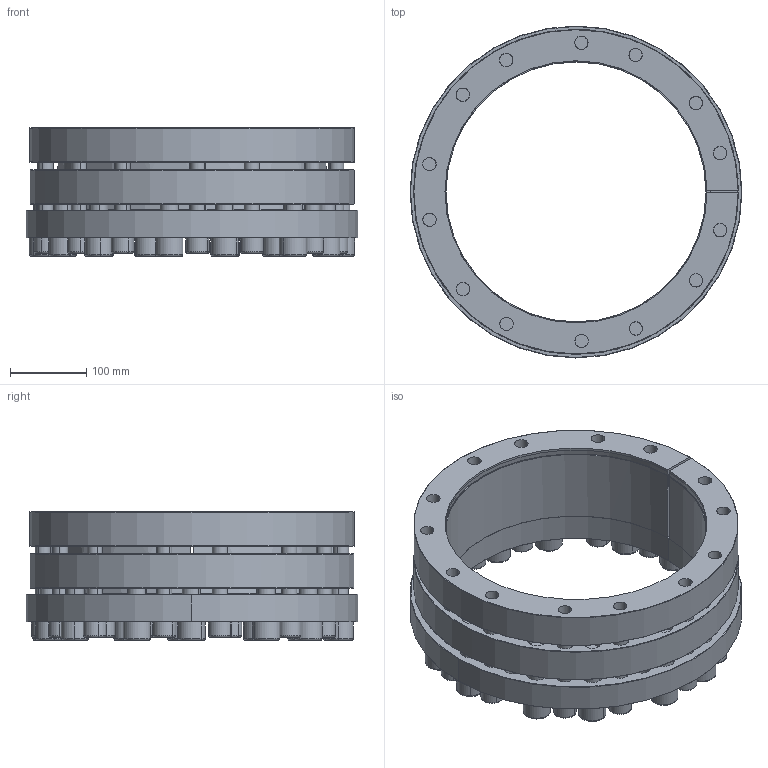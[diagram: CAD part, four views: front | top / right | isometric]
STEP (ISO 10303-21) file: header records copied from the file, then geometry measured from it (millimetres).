
FILE_DESCRIPTION (( 'STEP AP214' ), '1' );
FILE_NAME ('CONEX-P-340x425-P-011.step', '2015-11-30T21:14:33', ( '' ), ( '' ), 'SwSTEP 2.0', 'SolidWorks 2013', '' );
FILE_SCHEMA (( 'AUTOMOTIVE_DESIGN' ));
Length unit declared in the file: millimetre
Products named in the file (1): CONEX-P-340x425-P-011
Bounding box: 434 x 434 x 168.01 mm (x, y, z)
Volume: 7115014.2 mm3; surface area: 1291022.8 mm2
Topology: 31 solids, 31 shells, 967 faces, 2228 edges, 1324 vertices
Faces by surface type: plane 441, cylinder 276, cone 136, torus 114
Entity records: 38181 total; most frequent: DIRECTION 5122, CARTESIAN_POINT 4580, ORIENTED_EDGE 4344, EDGE_CURVE 2172, AXIS2_PLACEMENT_3D 2010, VERTEX_POINT 1324, EDGE_LOOP 1178, LINE 1102
